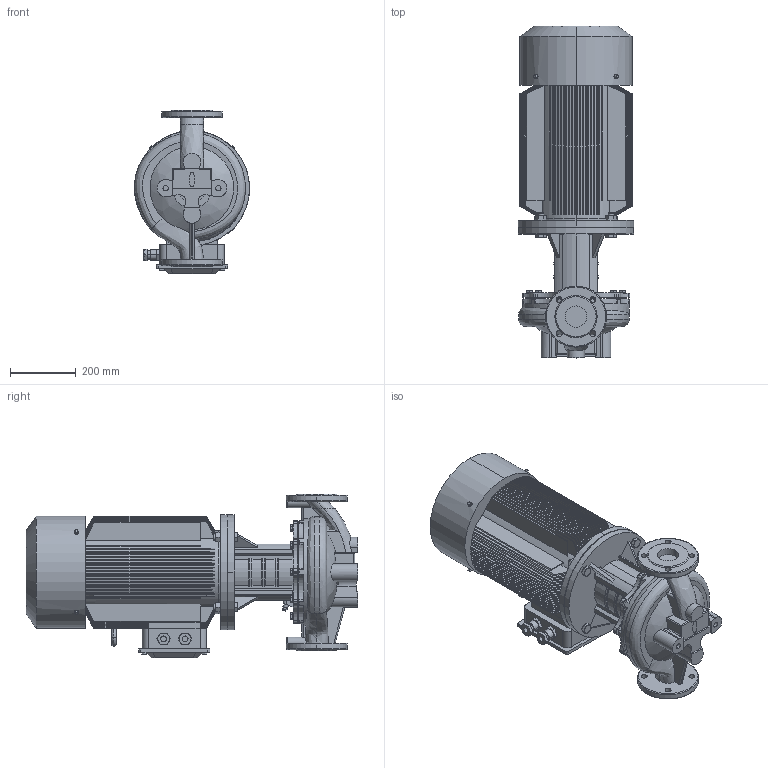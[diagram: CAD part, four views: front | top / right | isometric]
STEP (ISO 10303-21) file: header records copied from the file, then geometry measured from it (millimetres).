
FILE_DESCRIPTION(/* description */ (''),/* implementation_level */ '2;1');
FILE_NAME(/* name */ 'TD65-61-2安装尺寸图.stp',/* time_stamp */ '2026-09-07T15:59:54+08:00',/* author */ (''),/* organization */ (''),/* preprocessor_version */ 'ST-DEVELOPER v16.7',/* originating_system */ 'SIEMENS PLM Software NX 1847',/* authorisation */ '');
FILE_SCHEMA (('AP203_CONFIGURATION_CONTROLLED_3D_DESIGN_OF_MECHANICAL_PARTS_AND_ASSEMBLIES_MIM_LF { 1 0 10303 403 2 1 2}'));
Length unit declared in the file: millimetre
Products named in the file (1): Admi55F8EAC4z2kv
Bounding box: 350 x 1007 x 497 mm (x, y, z)
Volume: 64318673 mm3; surface area: 4267629.4 mm2
Topology: 1 solids, 7 shells, 1703 faces, 4265 edges, 2624 vertices
Faces by surface type: plane 649, cylinder 494, cone 404, torus 104, bspline 26, sphere 26
Full cylindrical faces by diameter (mm): 8 x1, 10 x1, 11.701 x10, 12.9 x1, 16.63 x10, 17.623 x8, 25.34 x4
Entity records: 57328 total; most frequent: CARTESIAN_POINT 17845, ORIENTED_EDGE 8300, DIRECTION 8165, EDGE_CURVE 4150, AXIS2_PLACEMENT_3D 3307, VERTEX_POINT 2598, EDGE_LOOP 1888, ADVANCED_FACE 1703
